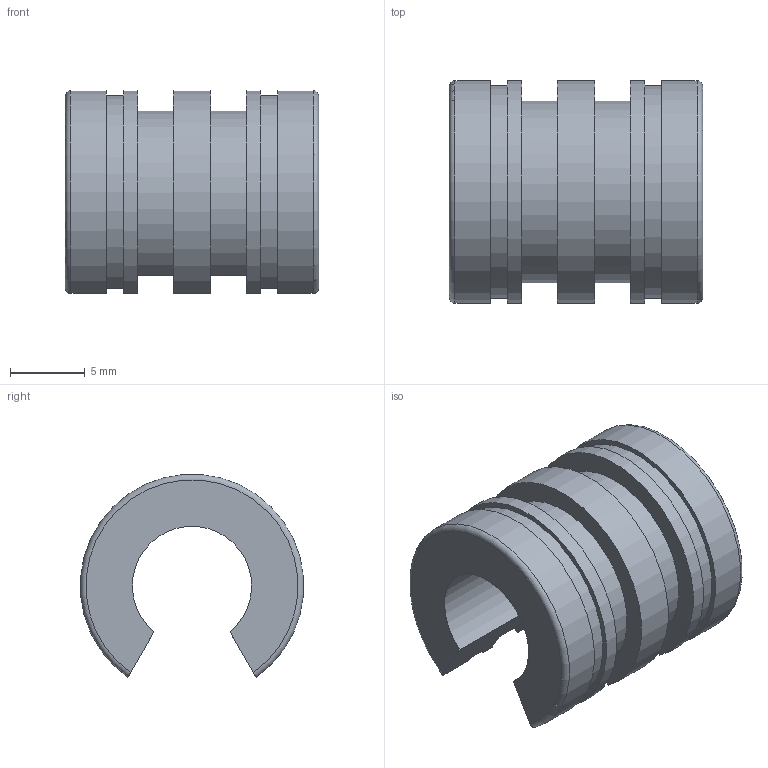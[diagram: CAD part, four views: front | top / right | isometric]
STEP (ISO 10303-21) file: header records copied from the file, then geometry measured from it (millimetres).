
FILE_DESCRIPTION(('STEP AP203'),'1');
FILE_NAME('//192.168.1.1/share/s-4 技術開発/s-4-4_CAD/s-4-4-3_見直し済み/PBC LINEAR修正済み/FJN/FJN_TOP/FJHN08.step','2022-03-24T07:45:17',(' '),(' '),'Spatial InterOp 3D',' ',' ');
FILE_SCHEMA(('CONFIG_CONTROL_DESIGN'));
Length unit declared in the file: millimetre
Products named in the file (1): 1
Bounding box: 17 x 14.94 x 13.61 mm (x, y, z)
Volume: 1456 mm3; surface area: 1474.7 mm2
Topology: 1 solids, 1 shells, 26 faces, 72 edges, 48 vertices
Faces by surface type: plane 12, cylinder 10, torus 4
Entity records: 900 total; most frequent: CARTESIAN_POINT 179, ORIENTED_EDGE 144, DIRECTION 142, EDGE_CURVE 72, AXIS2_PLACEMENT_3D 51, VERTEX_POINT 48, LINE 40, VECTOR 40
